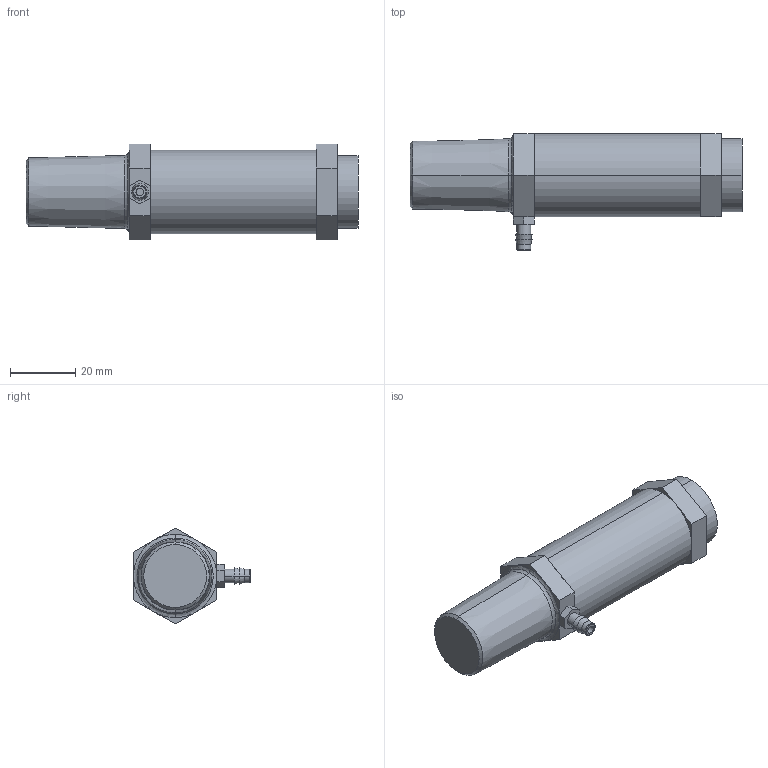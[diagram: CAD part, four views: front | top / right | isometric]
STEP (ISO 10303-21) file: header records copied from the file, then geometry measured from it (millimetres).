
FILE_DESCRIPTION((''),'2;1');
FILE_NAME('XE2_ASM','2017-08-24T',('jennifer.elliott'),('CenterLine (Windsor) Ltd - Automation Components Division'),'PRO/ENGINEER BY PARAMETRIC TECHNOLOGY CORPORATION, 2015030','PRO/ENGINEER BY PARAMETRIC TECHNOLOGY CORPORATION, 2015030','');
FILE_SCHEMA(('AUTOMOTIVE_DESIGN { 1 0 10303 214 1 1 1 1 }'));
Length unit declared in the file: inch
Products named in the file (6): PRT1031; PRT1032; PRT1033; PRT1034; PRT1035; XE2_ASM
Assembly tree (5 placements, depth 2):
  XE2_ASM
    PRT1031
    PRT1032
    PRT1033
    PRT1034
    PRT1035
Bounding box: 101.47 x 35.75 x 29.33 mm (x, y, z)
Volume: 47053.6 mm3; surface area: 11969.2 mm2
Topology: 5 solids, 5 shells, 69 faces, 144 edges, 88 vertices
Faces by surface type: plane 43, cylinder 10, torus 8, cone 8
Entity records: 2211 total; most frequent: DIRECTION 364, CARTESIAN_POINT 328, ORIENTED_EDGE 288, EDGE_CURVE 144, AXIS2_PLACEMENT_3D 140, VERTEX_POINT 88, VECTOR 84, LINE 84
